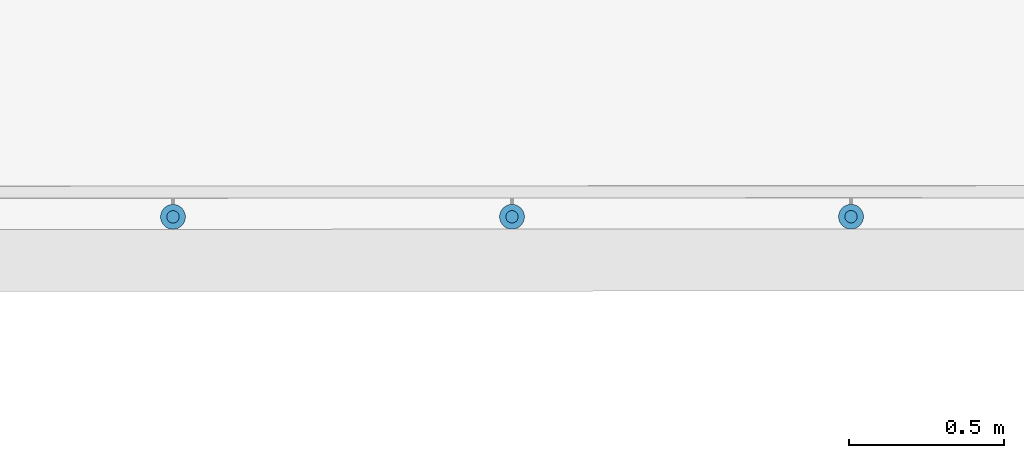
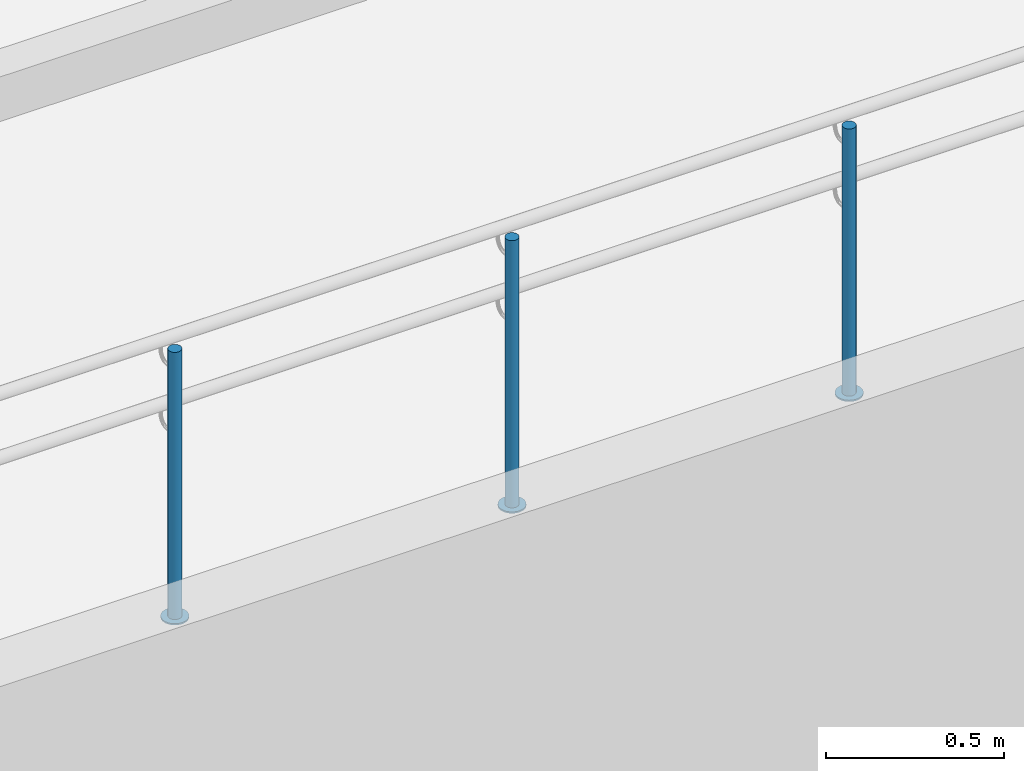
# One storey, part 128 of 237: 6 building element parts, 1 element without a shape of its own.
"""IFC2X3 building model written with IfcOpenShell, lengths in millimetres."""

from ifc_helpers import new_model, entity, si_unit, converted_unit, derived_unit, money_unit, direction, frame, origin_with_axes, place, context, subcontext, project, spatial, faceted_brep, material, type_object, element, aggregate, save


model = new_model("IFC2X3")

# Units and contexts
model_context = context("Model", 3, precision=0.01, world=origin_with_axes(), true_north=direction((0.0, 1.0)))
body_context = subcontext(model_context, "Body", "Model", "MODEL_VIEW")
ifc_project = project(units=[si_unit("LENGTHUNIT", "METRE", prefix="MILLI"), si_unit("AREAUNIT", "SQUARE_METRE"), si_unit("VOLUMEUNIT", "CUBIC_METRE"), converted_unit("PLANEANGLEUNIT", "DEGREE", entity("IfcPlaneAngleMeasure", 0.0174532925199), si_unit("PLANEANGLEUNIT", "RADIAN"), dimensions=[0, 0, 0, 0, 0, 0, 0]), money_unit("USD"), converted_unit("TIMEUNIT", "Year", entity("IfcTimeMeasure", 31556926.0), si_unit("TIMEUNIT", "SECOND"), dimensions=[0, 0, 1, 0, 0, 0, 0]), si_unit("MASSUNIT", "GRAM", prefix="KILO"), si_unit("THERMODYNAMICTEMPERATUREUNIT", "DEGREE_CELSIUS"), si_unit("LUMINOUSINTENSITYUNIT", "LUMEN"), si_unit("ENERGYUNIT", "JOULE", prefix="MEGA"), derived_unit("THERMALCONDUCTANCEUNIT", [(si_unit("POWERUNIT", "WATT"), 1), (si_unit("LENGTHUNIT", "METRE"), -1), (si_unit("THERMODYNAMICTEMPERATUREUNIT", "KELVIN"), -1)]), derived_unit("SPECIFICHEATCAPACITYUNIT", [(si_unit("ENERGYUNIT", "JOULE"), 1), (si_unit("MASSUNIT", "GRAM", prefix="KILO"), -1), (si_unit("THERMODYNAMICTEMPERATUREUNIT", "KELVIN"), -1)]), derived_unit("MASSDENSITYUNIT", [(si_unit("MASSUNIT", "GRAM", prefix="KILO"), 1), (si_unit("VOLUMEUNIT", "CUBIC_METRE"), -1)])], contexts=[model_context])

# Site, building, storey
site_placement = place(None, origin_with_axes())
site = spatial("IfcSite", under=ifc_project, at=site_placement, Name="Local", CompositionType="ELEMENT")
building_placement = place(site_placement, origin_with_axes())
building = spatial("IfcBuilding", under=site, at=building_placement, Name="Construção", CompositionType="ELEMENT")
storey_placement = place(building_placement, origin_with_axes())
storey = spatial("IfcBuildingStorey", under=building, at=storey_placement, Name="Pavimento Térreo", CompositionType="ELEMENT", Elevation=0.0)

# Railing, building element parts
railing_type = type_object("IfcRailingType", Name="Tipo de Guarda-Corpo", PredefinedType="NOTDEFINED")
railing_placement = place(storey_placement, frame((88000.0, 12000.0, -7124.22292764), z_axis=(0.0, 0.0, 1.0), x_axis=(1.0, 0.0, 0.0)))
railing = element("IfcRailing", 1, at=railing_placement, inside=storey, type_object=railing_type, Name="Guarda-Corpo - 003", PredefinedType="NOTDEFINED")
ifc_material_1 = material(Name="Aço - Inoxidável")
building_element_part_1_placement = place(railing_placement, origin_with_axes())
building_element_part_1 = element("IfcBuildingElementPart", 2, at=building_element_part_1_placement, material=ifc_material_1, Name="Aço - Inoxidável", context=body_context, shape_type="Brep", body=[
    faceted_brep([(2361.69934581, 1013.41226932, 2134.61538462), (2365.17238308, 1013.1092681, 2134.61538462), (2365.17238308, 1013.1092681, 3049.61538462), (2361.69934581, 1013.41226932, 3049.61538462), (2368.64527271, 1013.41395675, 2134.61538462), (2358.33168739, 1014.31375385, 2134.61538462), (2355.17173242, 1015.78633056, 2134.61538462), (2352.31549453, 1017.78525594, 2134.61538462), (2349.84975905, 1020.24979366, 2134.61538462), (2347.84944613, 1023.10505999, 2134.61538462), (2346.37533424, 1026.26429909, 2134.61538462), (2345.47221354, 1029.6315191, 2134.61538462), (2345.16752489, 1033.10440874, 2134.61538462), (2345.47052611, 1036.57744601, 2134.61538462), (2346.37201064, 1039.94510442, 2134.61538462), (2347.84458735, 1043.1050594, 2134.61538462), (2349.84351273, 1045.96129729, 2134.61538462), (2352.30805045, 1048.42703276, 2134.61538462), (2355.16331678, 1050.42734569, 2134.61538462), (2358.32255589, 1051.90145758, 2134.61538462), (2361.68977589, 1052.80457828, 2134.61538462), (2365.16266553, 1053.10926692, 2134.61538462), (2368.6357028, 1052.80626571, 2134.61538462), (2372.00336121, 1051.90478117, 2134.61538462), (2375.16331619, 1050.43220446, 2134.61538462), (2378.01955408, 1048.43327908, 2134.61538462), (2380.48528955, 1045.96874136, 2134.61538462), (2382.48560248, 1043.11347504, 2134.61538462), (2383.95971437, 1039.95423593, 2134.61538462), (2384.86283507, 1036.58701592, 2134.61538462), (2385.16752371, 1033.11412629, 2134.61538462), (2384.8645225, 1029.64108902, 2134.61538462), (2383.96303796, 1026.2734306, 2134.61538462), (2382.49046126, 1023.11347563, 2134.61538462), (2380.49153587, 1020.25723774, 2134.61538462), (2378.02699816, 1017.79150226, 2134.61538462), (2375.17173183, 1015.79118934, 2134.61538462), (2372.01249272, 1014.31707745, 2134.61538462), (2368.64527271, 1013.41395675, 3049.61538462), (2345.47052611, 1036.57744601, 3049.61538462), (2345.16752489, 1033.10440874, 3049.61538462), (2345.47221354, 1029.6315191, 3049.61538462), (2346.37533424, 1026.26429909, 3049.61538462), (2347.84944613, 1023.10505999, 3049.61538462), (2349.84975905, 1020.24979366, 3049.61538462), (2352.31549453, 1017.78525594, 3049.61538462), (2355.17173242, 1015.78633056, 3049.61538462), (2358.33168739, 1014.31375385, 3049.61538462), (2372.01249272, 1014.31707745, 3049.61538462), (2375.17173183, 1015.79118934, 3049.61538462), (2378.02699816, 1017.79150226, 3049.61538462), (2380.49153587, 1020.25723774, 3049.61538462), (2382.49046126, 1023.11347563, 3049.61538462), (2383.96303796, 1026.2734306, 3049.61538462), (2384.8645225, 1029.64108902, 3049.61538462), (2385.16752371, 1033.11412629, 3049.61538462), (2384.86283507, 1036.58701592, 3049.61538462), (2383.95971437, 1039.95423593, 3049.61538462), (2382.48560248, 1043.11347504, 3049.61538462), (2380.48528955, 1045.96874136, 3049.61538462), (2378.01955408, 1048.43327908, 3049.61538462), (2375.16331619, 1050.43220446, 3049.61538462), (2372.00336121, 1051.90478117, 3049.61538462), (2368.6357028, 1052.80626571, 3049.61538462), (2365.16266553, 1053.10926692, 3049.61538462), (2361.68977589, 1052.80457828, 3049.61538462), (2358.32255589, 1051.90145758, 3049.61538462), (2355.16331678, 1050.42734569, 3049.61538462), (2352.30805045, 1048.42703276, 3049.61538462), (2349.84351273, 1045.96129729, 3049.61538462), (2347.84458735, 1043.1050594, 3049.61538462), (2346.37201064, 1039.94510442, 3049.61538462)], [[[0, 1, 2, 3]], [[4, 1, 0, 5, 6, 7, 8, 9, 10, 11, 12, 13, 14, 15, 16, 17, 18, 19, 20, 21, 22, 23, 24, 25, 26, 27, 28, 29, 30, 31, 32, 33, 34, 35, 36, 37]], [[1, 4, 38, 2]], [[39, 40, 41, 42, 43, 44, 45, 46, 47, 3, 2, 38, 48, 49, 50, 51, 52, 53, 54, 55, 56, 57, 58, 59, 60, 61, 62, 63, 64, 65, 66, 67, 68, 69, 70, 71]], [[5, 0, 3, 47]], [[6, 5, 47, 46]], [[7, 6, 46, 45]], [[8, 7, 45, 44]], [[9, 8, 44, 43]], [[10, 9, 43, 42]], [[11, 10, 42, 41]], [[12, 11, 41, 40]], [[13, 12, 40, 39]], [[14, 13, 39, 71]], [[15, 14, 71, 70]], [[16, 15, 70, 69]], [[17, 16, 69, 68]], [[18, 17, 68, 67]], [[19, 18, 67, 66]], [[20, 19, 66, 65]], [[21, 20, 65, 64]], [[22, 21, 64, 63]], [[23, 22, 63, 62]], [[24, 23, 62, 61]], [[25, 24, 61, 60]], [[26, 25, 60, 59]], [[27, 26, 59, 58]], [[28, 27, 58, 57]], [[29, 28, 57, 56]], [[30, 29, 56, 55]], [[31, 30, 55, 54]], [[32, 31, 54, 53]], [[33, 32, 53, 52]], [[34, 33, 52, 51]], [[35, 34, 51, 50]], [[36, 35, 50, 49]], [[37, 36, 49, 48]], [[4, 37, 48, 38]]]),
])
ifc_material_2 = material(Name="Alumínio")
building_element_part_2_placement = place(railing_placement, origin_with_axes())
building_element_part_2 = element("IfcBuildingElementPart", 3, at=building_element_part_2_placement, material=ifc_material_2, Name="Alumínio", context=body_context, shape_type="Brep", body=[
    faceted_brep([(2405.16752312, 1033.11898506, 2129.61538462), (2404.55814583, 1040.06476433, 2129.61538462), (2404.55814583, 1040.06476433, 2134.61538462), (2405.16752312, 1033.11898506, 2134.61538462), (2404.5615207, 1026.17291053, 2129.61538462), (2402.75855162, 1019.43759369, 2129.61538462), (2399.81339821, 1013.11768375, 2129.61538462), (2395.81554744, 1007.40520796, 2129.61538462), (2390.88647201, 1002.47373701, 2129.61538462), (2385.17593936, 998.473111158, 2129.61538462), (2378.85746114, 995.524887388, 2129.61538462), (2372.12302112, 993.71864599, 2129.61538462), (2365.17724185, 993.109268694, 2129.61538462), (2358.23116732, 993.715271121, 2129.61538462), (2351.49585048, 995.518240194, 2129.61538462), (2345.17594054, 998.46339361, 2129.61538462), (2339.46346475, 1002.46124437, 2129.61538462), (2334.5319938, 1007.39031981, 2129.61538462), (2330.53136795, 1013.10085246, 2129.61538462), (2327.58314418, 1019.41933068, 2129.61538462), (2325.77690278, 1026.1537707, 2129.61538462), (2325.16752548, 1033.09954997, 2129.61538462), (2325.77352791, 1040.0456245, 2129.61538462), (2327.57649698, 1046.78094133, 2129.61538462), (2330.5216504, 1053.10085128, 2129.61538462), (2334.51950116, 1058.81332707, 2129.61538462), (2339.4485766, 1063.74479801, 2129.61538462), (2345.15910925, 1067.74542387, 2129.61538462), (2351.47758747, 1070.69364764, 2129.61538462), (2358.21202749, 1072.49988904, 2129.61538462), (2365.15780676, 1073.10926633, 2129.61538462), (2372.10388129, 1072.50326391, 2129.61538462), (2378.83919813, 1070.70029483, 2129.61538462), (2385.15910807, 1067.75514142, 2129.61538462), (2390.87158386, 1063.75729065, 2129.61538462), (2395.80305481, 1058.82821522, 2129.61538462), (2399.80368066, 1053.11768257, 2129.61538462), (2402.75190443, 1046.79920435, 2129.61538462), (2402.75190443, 1046.79920435, 2134.61538462), (2399.80368066, 1053.11768257, 2134.61538462), (2395.80305481, 1058.82821522, 2134.61538462), (2390.87158386, 1063.75729065, 2134.61538462), (2385.15910807, 1067.75514142, 2134.61538462), (2378.83919813, 1070.70029483, 2134.61538462), (2372.10388129, 1072.50326391, 2134.61538462), (2365.15780676, 1073.10926633, 2134.61538462), (2358.21202749, 1072.49988904, 2134.61538462), (2351.47758747, 1070.69364764, 2134.61538462), (2345.15910925, 1067.74542387, 2134.61538462), (2339.4485766, 1063.74479801, 2134.61538462), (2334.51950116, 1058.81332707, 2134.61538462), (2330.5216504, 1053.10085128, 2134.61538462), (2327.57649698, 1046.78094133, 2134.61538462), (2325.77352791, 1040.0456245, 2134.61538462), (2325.16752548, 1033.09954997, 2134.61538462), (2325.77690278, 1026.1537707, 2134.61538462), (2327.58314418, 1019.41933068, 2134.61538462), (2330.53136795, 1013.10085246, 2134.61538462), (2334.5319938, 1007.39031981, 2134.61538462), (2339.46346475, 1002.46124437, 2134.61538462), (2345.17594054, 998.46339361, 2134.61538462), (2351.49585048, 995.518240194, 2134.61538462), (2358.23116732, 993.715271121, 2134.61538462), (2365.17724185, 993.109268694, 2134.61538462), (2372.12302112, 993.71864599, 2134.61538462), (2378.85746114, 995.524887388, 2134.61538462), (2385.17593936, 998.473111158, 2134.61538462), (2390.88647201, 1002.47373701, 2134.61538462), (2395.81554744, 1007.40520796, 2134.61538462), (2399.81339821, 1013.11768375, 2134.61538462), (2402.75855162, 1019.43759369, 2134.61538462), (2404.5615207, 1026.17291053, 2134.61538462)], [[[0, 1, 2, 3]], [[0, 4, 5, 6, 7, 8, 9, 10, 11, 12, 13, 14, 15, 16, 17, 18, 19, 20, 21, 22, 23, 24, 25, 26, 27, 28, 29, 30, 31, 32, 33, 34, 35, 36, 37, 1]], [[1, 37, 38, 2]], [[3, 2, 38, 39, 40, 41, 42, 43, 44, 45, 46, 47, 48, 49, 50, 51, 52, 53, 54, 55, 56, 57, 58, 59, 60, 61, 62, 63, 64, 65, 66, 67, 68, 69, 70, 71]], [[4, 0, 3, 71]], [[5, 4, 71, 70]], [[6, 5, 70, 69]], [[7, 6, 69, 68]], [[8, 7, 68, 67]], [[9, 8, 67, 66]], [[10, 9, 66, 65]], [[11, 10, 65, 64]], [[12, 11, 64, 63]], [[13, 12, 63, 62]], [[14, 13, 62, 61]], [[15, 14, 61, 60]], [[16, 15, 60, 59]], [[17, 16, 59, 58]], [[18, 17, 58, 57]], [[19, 18, 57, 56]], [[20, 19, 56, 55]], [[21, 20, 55, 54]], [[22, 21, 54, 53]], [[23, 22, 53, 52]], [[24, 23, 52, 51]], [[25, 24, 51, 50]], [[26, 25, 50, 49]], [[27, 26, 49, 48]], [[28, 27, 48, 47]], [[29, 28, 47, 46]], [[30, 29, 46, 45]], [[31, 30, 45, 44]], [[32, 31, 44, 43]], [[33, 32, 43, 42]], [[34, 33, 42, 41]], [[35, 34, 41, 40]], [[36, 35, 40, 39]], [[37, 36, 39, 38]]]),
])
building_element_part_3_placement = place(railing_placement, origin_with_axes())
building_element_part_3 = element("IfcBuildingElementPart", 4, at=building_element_part_3_placement, material=ifc_material_1, Name="Aço - Inoxidável", context=body_context, shape_type="Brep", body=[
    faceted_brep([(3454.19067762, 1013.67767775, 2134.61538462), (3457.66371489, 1013.37467653, 2134.61538462), (3457.66371489, 1013.37467653, 3049.61538462), (3454.19067762, 1013.67767775, 3049.61538462), (3461.13660452, 1013.67936518, 2134.61538462), (3450.82301921, 1014.57916228, 2134.61538462), (3447.66306423, 1016.05173899, 2134.61538462), (3444.80682634, 1018.05066437, 2134.61538462), (3442.34109087, 1020.51520209, 2134.61538462), (3440.34077794, 1023.37046842, 2134.61538462), (3438.86666605, 1026.52970752, 2134.61538462), (3437.96354535, 1029.89692753, 2134.61538462), (3437.65885671, 1033.36981717, 2134.61538462), (3437.96185792, 1036.84285443, 2134.61538462), (3438.86334246, 1040.21051285, 2134.61538462), (3440.33591916, 1043.37046783, 2134.61538462), (3442.33484455, 1046.22670572, 2134.61538462), (3444.79938226, 1048.69244119, 2134.61538462), (3447.65464859, 1050.69275412, 2134.61538462), (3450.8138877, 1052.166866, 2134.61538462), (3454.18110771, 1053.0699867, 2134.61538462), (3457.65399734, 1053.37467535, 2134.61538462), (3461.12703461, 1053.07167414, 2134.61538462), (3464.49469303, 1052.1701896, 2134.61538462), (3467.654648, 1050.69761289, 2134.61538462), (3470.51088589, 1048.69868751, 2134.61538462), (3472.97662137, 1046.23414979, 2134.61538462), (3474.97693429, 1043.37888347, 2134.61538462), (3476.45104618, 1040.21964436, 2134.61538462), (3477.35416688, 1036.85242435, 2134.61538462), (3477.65885553, 1033.37953472, 2134.61538462), (3477.35585431, 1029.90649745, 2134.61538462), (3476.45436978, 1026.53883903, 2134.61538462), (3474.98179307, 1023.37888406, 2134.61538462), (3472.98286769, 1020.52264616, 2134.61538462), (3470.51832997, 1018.05691069, 2134.61538462), (3467.66306364, 1016.05659776, 2134.61538462), (3464.50382453, 1014.58248588, 2134.61538462), (3461.13660452, 1013.67936518, 3049.61538462), (3437.96185792, 1036.84285443, 3049.61538462), (3437.65885671, 1033.36981717, 3049.61538462), (3437.96354535, 1029.89692753, 3049.61538462), (3438.86666605, 1026.52970752, 3049.61538462), (3440.34077794, 1023.37046842, 3049.61538462), (3442.34109087, 1020.51520209, 3049.61538462), (3444.80682634, 1018.05066437, 3049.61538462), (3447.66306423, 1016.05173899, 3049.61538462), (3450.82301921, 1014.57916228, 3049.61538462), (3464.50382453, 1014.58248588, 3049.61538462), (3467.66306364, 1016.05659776, 3049.61538462), (3470.51832997, 1018.05691069, 3049.61538462), (3472.98286769, 1020.52264616, 3049.61538462), (3474.98179307, 1023.37888406, 3049.61538462), (3476.45436978, 1026.53883903, 3049.61538462), (3477.35585431, 1029.90649745, 3049.61538462), (3477.65885553, 1033.37953472, 3049.61538462), (3477.35416688, 1036.85242435, 3049.61538462), (3476.45104618, 1040.21964436, 3049.61538462), (3474.97693429, 1043.37888347, 3049.61538462), (3472.97662137, 1046.23414979, 3049.61538462), (3470.51088589, 1048.69868751, 3049.61538462), (3467.654648, 1050.69761289, 3049.61538462), (3464.49469303, 1052.1701896, 3049.61538462), (3461.12703461, 1053.07167414, 3049.61538462), (3457.65399734, 1053.37467535, 3049.61538462), (3454.18110771, 1053.0699867, 3049.61538462), (3450.8138877, 1052.166866, 3049.61538462), (3447.65464859, 1050.69275412, 3049.61538462), (3444.79938226, 1048.69244119, 3049.61538462), (3442.33484455, 1046.22670572, 3049.61538462), (3440.33591916, 1043.37046783, 3049.61538462), (3438.86334246, 1040.21051285, 3049.61538462)], [[[0, 1, 2, 3]], [[4, 1, 0, 5, 6, 7, 8, 9, 10, 11, 12, 13, 14, 15, 16, 17, 18, 19, 20, 21, 22, 23, 24, 25, 26, 27, 28, 29, 30, 31, 32, 33, 34, 35, 36, 37]], [[1, 4, 38, 2]], [[39, 40, 41, 42, 43, 44, 45, 46, 47, 3, 2, 38, 48, 49, 50, 51, 52, 53, 54, 55, 56, 57, 58, 59, 60, 61, 62, 63, 64, 65, 66, 67, 68, 69, 70, 71]], [[5, 0, 3, 47]], [[6, 5, 47, 46]], [[7, 6, 46, 45]], [[8, 7, 45, 44]], [[9, 8, 44, 43]], [[10, 9, 43, 42]], [[11, 10, 42, 41]], [[12, 11, 41, 40]], [[13, 12, 40, 39]], [[14, 13, 39, 71]], [[15, 14, 71, 70]], [[16, 15, 70, 69]], [[17, 16, 69, 68]], [[18, 17, 68, 67]], [[19, 18, 67, 66]], [[20, 19, 66, 65]], [[21, 20, 65, 64]], [[22, 21, 64, 63]], [[23, 22, 63, 62]], [[24, 23, 62, 61]], [[25, 24, 61, 60]], [[26, 25, 60, 59]], [[27, 26, 59, 58]], [[28, 27, 58, 57]], [[29, 28, 57, 56]], [[30, 29, 56, 55]], [[31, 30, 55, 54]], [[32, 31, 54, 53]], [[33, 32, 53, 52]], [[34, 33, 52, 51]], [[35, 34, 51, 50]], [[36, 35, 50, 49]], [[37, 36, 49, 48]], [[4, 37, 48, 38]]]),
])
building_element_part_4_placement = place(railing_placement, origin_with_axes())
building_element_part_4 = element("IfcBuildingElementPart", 5, at=building_element_part_4_placement, material=ifc_material_2, Name="Alumínio", context=body_context, shape_type="Brep", body=[
    faceted_brep([(3497.65885494, 1033.38439349, 2129.61538462), (3497.04947764, 1040.33017276, 2129.61538462), (3497.04947764, 1040.33017276, 2134.61538462), (3497.65885494, 1033.38439349, 2134.61538462), (3497.05285251, 1026.43831896, 2129.61538462), (3495.24988344, 1019.70300212, 2129.61538462), (3492.30473002, 1013.38309218, 2129.61538462), (3488.30687926, 1007.67061639, 2129.61538462), (3483.37780382, 1002.73914544, 2129.61538462), (3477.66727117, 998.738519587, 2129.61538462), (3471.34879295, 995.790295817, 2129.61538462), (3464.61435293, 993.984054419, 2129.61538462), (3457.66857366, 993.374677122, 2129.61538462), (3450.72249913, 993.98067955, 2129.61538462), (3443.98718229, 995.783648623, 2129.61538462), (3437.66727235, 998.728802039, 2129.61538462), (3431.95479656, 1002.7266528, 2129.61538462), (3427.02332561, 1007.65572824, 2129.61538462), (3423.02269976, 1013.36626089, 2129.61538462), (3420.07447599, 1019.6847391, 2129.61538462), (3418.26823459, 1026.41917912, 2129.61538462), (3417.6588573, 1033.36495839, 2129.61538462), (3418.26485972, 1040.31103293, 2129.61538462), (3420.0678288, 1047.04634976, 2129.61538462), (3423.01298221, 1053.36625971, 2129.61538462), (3427.01083298, 1059.0787355, 2129.61538462), (3431.93990841, 1064.01020644, 2129.61538462), (3437.65044106, 1068.0108323, 2129.61538462), (3443.96891928, 1070.95905607, 2129.61538462), (3450.7033593, 1072.76529747, 2129.61538462), (3457.64913857, 1073.37467476, 2129.61538462), (3464.5952131, 1072.76867233, 2129.61538462), (3471.33052994, 1070.96570326, 2129.61538462), (3477.65043988, 1068.02054985, 2129.61538462), (3483.36291567, 1064.02269908, 2129.61538462), (3488.29438662, 1059.09362364, 2129.61538462), (3492.29501247, 1053.383091, 2129.61538462), (3495.24323624, 1047.06461278, 2129.61538462), (3495.24323624, 1047.06461278, 2134.61538462), (3492.29501247, 1053.383091, 2134.61538462), (3488.29438662, 1059.09362364, 2134.61538462), (3483.36291567, 1064.02269908, 2134.61538462), (3477.65043988, 1068.02054985, 2134.61538462), (3471.33052994, 1070.96570326, 2134.61538462), (3464.5952131, 1072.76867233, 2134.61538462), (3457.64913857, 1073.37467476, 2134.61538462), (3450.7033593, 1072.76529747, 2134.61538462), (3443.96891928, 1070.95905607, 2134.61538462), (3437.65044106, 1068.0108323, 2134.61538462), (3431.93990841, 1064.01020644, 2134.61538462), (3427.01083298, 1059.0787355, 2134.61538462), (3423.01298221, 1053.36625971, 2134.61538462), (3420.0678288, 1047.04634976, 2134.61538462), (3418.26485972, 1040.31103293, 2134.61538462), (3417.6588573, 1033.36495839, 2134.61538462), (3418.26823459, 1026.41917912, 2134.61538462), (3420.07447599, 1019.6847391, 2134.61538462), (3423.02269976, 1013.36626089, 2134.61538462), (3427.02332561, 1007.65572824, 2134.61538462), (3431.95479656, 1002.7266528, 2134.61538462), (3437.66727235, 998.728802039, 2134.61538462), (3443.98718229, 995.783648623, 2134.61538462), (3450.72249913, 993.98067955, 2134.61538462), (3457.66857366, 993.374677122, 2134.61538462), (3464.61435293, 993.984054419, 2134.61538462), (3471.34879295, 995.790295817, 2134.61538462), (3477.66727117, 998.738519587, 2134.61538462), (3483.37780382, 1002.73914544, 2134.61538462), (3488.30687926, 1007.67061639, 2134.61538462), (3492.30473002, 1013.38309218, 2134.61538462), (3495.24988344, 1019.70300212, 2134.61538462), (3497.05285251, 1026.43831896, 2134.61538462)], [[[0, 1, 2, 3]], [[0, 4, 5, 6, 7, 8, 9, 10, 11, 12, 13, 14, 15, 16, 17, 18, 19, 20, 21, 22, 23, 24, 25, 26, 27, 28, 29, 30, 31, 32, 33, 34, 35, 36, 37, 1]], [[1, 37, 38, 2]], [[3, 2, 38, 39, 40, 41, 42, 43, 44, 45, 46, 47, 48, 49, 50, 51, 52, 53, 54, 55, 56, 57, 58, 59, 60, 61, 62, 63, 64, 65, 66, 67, 68, 69, 70, 71]], [[4, 0, 3, 71]], [[5, 4, 71, 70]], [[6, 5, 70, 69]], [[7, 6, 69, 68]], [[8, 7, 68, 67]], [[9, 8, 67, 66]], [[10, 9, 66, 65]], [[11, 10, 65, 64]], [[12, 11, 64, 63]], [[13, 12, 63, 62]], [[14, 13, 62, 61]], [[15, 14, 61, 60]], [[16, 15, 60, 59]], [[17, 16, 59, 58]], [[18, 17, 58, 57]], [[19, 18, 57, 56]], [[20, 19, 56, 55]], [[21, 20, 55, 54]], [[22, 21, 54, 53]], [[23, 22, 53, 52]], [[24, 23, 52, 51]], [[25, 24, 51, 50]], [[26, 25, 50, 49]], [[27, 26, 49, 48]], [[28, 27, 48, 47]], [[29, 28, 47, 46]], [[30, 29, 46, 45]], [[31, 30, 45, 44]], [[32, 31, 44, 43]], [[33, 32, 43, 42]], [[34, 33, 42, 41]], [[35, 34, 41, 40]], [[36, 35, 40, 39]], [[37, 36, 39, 38]]]),
])
building_element_part_5_placement = place(railing_placement, origin_with_axes())
building_element_part_5 = element("IfcBuildingElementPart", 6, at=building_element_part_5_placement, material=ifc_material_1, Name="Aço - Inoxidável", context=body_context, shape_type="Brep", body=[
    faceted_brep([(4546.68200943, 1013.94308617, 2134.61538462), (4550.1550467, 1013.64008496, 2134.61538462), (4550.1550467, 1013.64008496, 3049.61538462), (4546.68200943, 1013.94308617, 3049.61538462), (4553.62793634, 1013.94477361, 2134.61538462), (4543.31435102, 1014.84457071, 2134.61538462), (4540.15439604, 1016.31714742, 2134.61538462), (4537.29815815, 1018.3160728, 2134.61538462), (4534.83242268, 1020.78061052, 2134.61538462), (4532.83210975, 1023.63587684, 2134.61538462), (4531.35799786, 1026.79511595, 2134.61538462), (4530.45487717, 1030.16233596, 2134.61538462), (4530.15018852, 1033.6352256, 2134.61538462), (4530.45318973, 1037.10826286, 2134.61538462), (4531.35467427, 1040.47592128, 2134.61538462), (4532.82725098, 1043.63587625, 2134.61538462), (4534.82617636, 1046.49211415, 2134.61538462), (4537.29071408, 1048.95784962, 2134.61538462), (4540.1459804, 1050.95816255, 2134.61538462), (4543.30521951, 1052.43227443, 2134.61538462), (4546.67243952, 1053.33539513, 2134.61538462), (4550.14532915, 1053.64008378, 2134.61538462), (4553.61836642, 1053.33708257, 2134.61538462), (4556.98602484, 1052.43559803, 2134.61538462), (4560.14597981, 1050.96302132, 2134.61538462), (4563.00221771, 1048.96409594, 2134.61538462), (4565.46795318, 1046.49955822, 2134.61538462), (4567.46826611, 1043.6442919, 2134.61538462), (4568.94237799, 1040.48505279, 2134.61538462), (4569.84549869, 1037.11783278, 2134.61538462), (4570.15018734, 1033.64494314, 2134.61538462), (4569.84718612, 1030.17190588, 2134.61538462), (4568.94570159, 1026.80424746, 2134.61538462), (4567.47312488, 1023.64429249, 2134.61538462), (4565.4741995, 1020.78805459, 2134.61538462), (4563.00966178, 1018.32231912, 2134.61538462), (4560.15439545, 1016.32200619, 2134.61538462), (4556.99515635, 1014.84789431, 2134.61538462), (4553.62793634, 1013.94477361, 3049.61538462), (4530.45318973, 1037.10826286, 3049.61538462), (4530.15018852, 1033.6352256, 3049.61538462), (4530.45487717, 1030.16233596, 3049.61538462), (4531.35799786, 1026.79511595, 3049.61538462), (4532.83210975, 1023.63587684, 3049.61538462), (4534.83242268, 1020.78061052, 3049.61538462), (4537.29815815, 1018.3160728, 3049.61538462), (4540.15439604, 1016.31714742, 3049.61538462), (4543.31435102, 1014.84457071, 3049.61538462), (4556.99515635, 1014.84789431, 3049.61538462), (4560.15439545, 1016.32200619, 3049.61538462), (4563.00966178, 1018.32231912, 3049.61538462), (4565.4741995, 1020.78805459, 3049.61538462), (4567.47312488, 1023.64429249, 3049.61538462), (4568.94570159, 1026.80424746, 3049.61538462), (4569.84718612, 1030.17190588, 3049.61538462), (4570.15018734, 1033.64494314, 3049.61538462), (4569.84549869, 1037.11783278, 3049.61538462), (4568.94237799, 1040.48505279, 3049.61538462), (4567.46826611, 1043.6442919, 3049.61538462), (4565.46795318, 1046.49955822, 3049.61538462), (4563.00221771, 1048.96409594, 3049.61538462), (4560.14597981, 1050.96302132, 3049.61538462), (4556.98602484, 1052.43559803, 3049.61538462), (4553.61836642, 1053.33708257, 3049.61538462), (4550.14532915, 1053.64008378, 3049.61538462), (4546.67243952, 1053.33539513, 3049.61538462), (4543.30521951, 1052.43227443, 3049.61538462), (4540.1459804, 1050.95816255, 3049.61538462), (4537.29071408, 1048.95784962, 3049.61538462), (4534.82617636, 1046.49211415, 3049.61538462), (4532.82725098, 1043.63587625, 3049.61538462), (4531.35467427, 1040.47592128, 3049.61538462)], [[[0, 1, 2, 3]], [[4, 1, 0, 5, 6, 7, 8, 9, 10, 11, 12, 13, 14, 15, 16, 17, 18, 19, 20, 21, 22, 23, 24, 25, 26, 27, 28, 29, 30, 31, 32, 33, 34, 35, 36, 37]], [[1, 4, 38, 2]], [[39, 40, 41, 42, 43, 44, 45, 46, 47, 3, 2, 38, 48, 49, 50, 51, 52, 53, 54, 55, 56, 57, 58, 59, 60, 61, 62, 63, 64, 65, 66, 67, 68, 69, 70, 71]], [[5, 0, 3, 47]], [[6, 5, 47, 46]], [[7, 6, 46, 45]], [[8, 7, 45, 44]], [[9, 8, 44, 43]], [[10, 9, 43, 42]], [[11, 10, 42, 41]], [[12, 11, 41, 40]], [[13, 12, 40, 39]], [[14, 13, 39, 71]], [[15, 14, 71, 70]], [[16, 15, 70, 69]], [[17, 16, 69, 68]], [[18, 17, 68, 67]], [[19, 18, 67, 66]], [[20, 19, 66, 65]], [[21, 20, 65, 64]], [[22, 21, 64, 63]], [[23, 22, 63, 62]], [[24, 23, 62, 61]], [[25, 24, 61, 60]], [[26, 25, 60, 59]], [[27, 26, 59, 58]], [[28, 27, 58, 57]], [[29, 28, 57, 56]], [[30, 29, 56, 55]], [[31, 30, 55, 54]], [[32, 31, 54, 53]], [[33, 32, 53, 52]], [[34, 33, 52, 51]], [[35, 34, 51, 50]], [[36, 35, 50, 49]], [[37, 36, 49, 48]], [[4, 37, 48, 38]]]),
])
building_element_part_6_placement = place(railing_placement, origin_with_axes())
building_element_part_6 = element("IfcBuildingElementPart", 7, at=building_element_part_6_placement, material=ifc_material_2, Name="Alumínio", context=body_context, shape_type="Brep", body=[
    faceted_brep([(4590.15018675, 1033.64980192, 2129.61538462), (4589.54080945, 1040.59558119, 2129.61538462), (4589.54080945, 1040.59558119, 2134.61538462), (4590.15018675, 1033.64980192, 2134.61538462), (4589.54418432, 1026.70372739, 2129.61538462), (4587.74121525, 1019.96841055, 2129.61538462), (4584.79606183, 1013.6485006, 2129.61538462), (4580.79821107, 1007.93602482, 2129.61538462), (4575.86913563, 1003.00455387, 2129.61538462), (4570.15860298, 999.003928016, 2129.61538462), (4563.84012476, 996.055704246, 2129.61538462), (4557.10568475, 994.249462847, 2129.61538462), (4550.15990548, 993.640085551, 2129.61538462), (4543.21383094, 994.246087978, 2129.61538462), (4536.47851411, 996.049057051, 2129.61538462), (4530.15860416, 998.994210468, 2129.61538462), (4524.44612837, 1002.99206123, 2129.61538462), (4519.51465743, 1007.92113667, 2129.61538462), (4515.51403157, 1013.63166932, 2129.61538462), (4512.5658078, 1019.95014753, 2129.61538462), (4510.7595664, 1026.68458755, 2129.61538462), (4510.15018911, 1033.63036682, 2129.61538462), (4510.75619153, 1040.57644136, 2129.61538462), (4512.55916061, 1047.31175819, 2129.61538462), (4515.50431402, 1053.63166814, 2129.61538462), (4519.50216479, 1059.34414393, 2129.61538462), (4524.43124023, 1064.27561487, 2129.61538462), (4530.14177287, 1068.27624073, 2129.61538462), (4536.46025109, 1071.2244645, 2129.61538462), (4543.19469111, 1073.03070589, 2129.61538462), (4550.14047038, 1073.64008319, 2129.61538462), (4557.08654491, 1073.03408076, 2129.61538462), (4563.82186175, 1071.23111169, 2129.61538462), (4570.14177169, 1068.28595827, 2129.61538462), (4575.85424748, 1064.28810751, 2129.61538462), (4580.78571843, 1059.35903207, 2129.61538462), (4584.78634428, 1053.64849942, 2129.61538462), (4587.73456805, 1047.33002121, 2129.61538462), (4587.73456805, 1047.33002121, 2134.61538462), (4584.78634428, 1053.64849942, 2134.61538462), (4580.78571843, 1059.35903207, 2134.61538462), (4575.85424748, 1064.28810751, 2134.61538462), (4570.14177169, 1068.28595827, 2134.61538462), (4563.82186175, 1071.23111169, 2134.61538462), (4557.08654491, 1073.03408076, 2134.61538462), (4550.14047038, 1073.64008319, 2134.61538462), (4543.19469111, 1073.03070589, 2134.61538462), (4536.46025109, 1071.2244645, 2134.61538462), (4530.14177287, 1068.27624073, 2134.61538462), (4524.43124023, 1064.27561487, 2134.61538462), (4519.50216479, 1059.34414393, 2134.61538462), (4515.50431402, 1053.63166814, 2134.61538462), (4512.55916061, 1047.31175819, 2134.61538462), (4510.75619153, 1040.57644136, 2134.61538462), (4510.15018911, 1033.63036682, 2134.61538462), (4510.7595664, 1026.68458755, 2134.61538462), (4512.5658078, 1019.95014753, 2134.61538462), (4515.51403157, 1013.63166932, 2134.61538462), (4519.51465743, 1007.92113667, 2134.61538462), (4524.44612837, 1002.99206123, 2134.61538462), (4530.15860416, 998.994210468, 2134.61538462), (4536.47851411, 996.049057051, 2134.61538462), (4543.21383094, 994.246087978, 2134.61538462), (4550.15990548, 993.640085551, 2134.61538462), (4557.10568475, 994.249462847, 2134.61538462), (4563.84012476, 996.055704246, 2134.61538462), (4570.15860298, 999.003928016, 2134.61538462), (4575.86913563, 1003.00455387, 2134.61538462), (4580.79821107, 1007.93602482, 2134.61538462), (4584.79606183, 1013.6485006, 2134.61538462), (4587.74121525, 1019.96841055, 2134.61538462), (4589.54418432, 1026.70372739, 2134.61538462)], [[[0, 1, 2, 3]], [[0, 4, 5, 6, 7, 8, 9, 10, 11, 12, 13, 14, 15, 16, 17, 18, 19, 20, 21, 22, 23, 24, 25, 26, 27, 28, 29, 30, 31, 32, 33, 34, 35, 36, 37, 1]], [[1, 37, 38, 2]], [[3, 2, 38, 39, 40, 41, 42, 43, 44, 45, 46, 47, 48, 49, 50, 51, 52, 53, 54, 55, 56, 57, 58, 59, 60, 61, 62, 63, 64, 65, 66, 67, 68, 69, 70, 71]], [[4, 0, 3, 71]], [[5, 4, 71, 70]], [[6, 5, 70, 69]], [[7, 6, 69, 68]], [[8, 7, 68, 67]], [[9, 8, 67, 66]], [[10, 9, 66, 65]], [[11, 10, 65, 64]], [[12, 11, 64, 63]], [[13, 12, 63, 62]], [[14, 13, 62, 61]], [[15, 14, 61, 60]], [[16, 15, 60, 59]], [[17, 16, 59, 58]], [[18, 17, 58, 57]], [[19, 18, 57, 56]], [[20, 19, 56, 55]], [[21, 20, 55, 54]], [[22, 21, 54, 53]], [[23, 22, 53, 52]], [[24, 23, 52, 51]], [[25, 24, 51, 50]], [[26, 25, 50, 49]], [[27, 26, 49, 48]], [[28, 27, 48, 47]], [[29, 28, 47, 46]], [[30, 29, 46, 45]], [[31, 30, 45, 44]], [[32, 31, 44, 43]], [[33, 32, 43, 42]], [[34, 33, 42, 41]], [[35, 34, 41, 40]], [[36, 35, 40, 39]], [[37, 36, 39, 38]]]),
])
aggregate(railing, [building_element_part_1, building_element_part_2, building_element_part_3, building_element_part_4, building_element_part_5, building_element_part_6])

save(model, "model.ifc")
